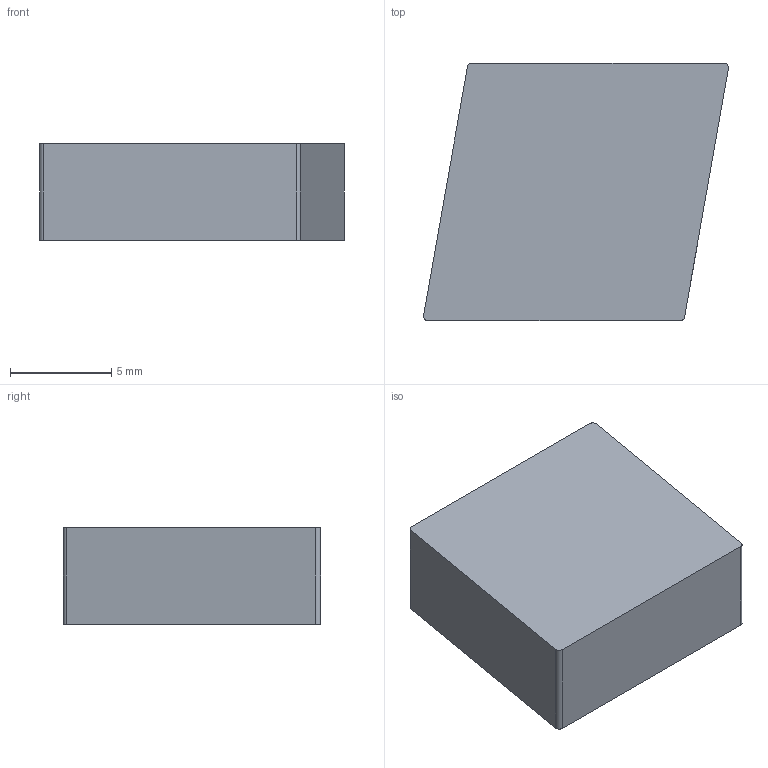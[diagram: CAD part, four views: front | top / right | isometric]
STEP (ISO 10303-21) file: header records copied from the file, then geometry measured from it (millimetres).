
FILE_DESCRIPTION((''),'2;1');
FILE_NAME('C:\Users\drh\Desktop\Presentation\Mating\CNMG 430.5.stp','2018-05-22T16:41:18',(''),(''),'STEP Write','Mastercam 2020 ... CNC Software, Inc.','');
FILE_SCHEMA(('AUTOMOTIVE_DESIGN'));
Length unit declared in the file: inch
Products named in the file (1): None
Bounding box: 15.06 x 12.7 x 4.76 mm (x, y, z)
Volume: 779.8 mm3; surface area: 571.4 mm2
Topology: 1 solids, 1 shells, 10 faces, 24 edges, 16 vertices
Faces by surface type: plane 6, cylinder 4
Entity records: 339 total; most frequent: DIRECTION 56, CARTESIAN_POINT 52, ORIENTED_EDGE 48, EDGE_CURVE 24, AXIS2_PLACEMENT_3D 20, VERTEX_POINT 16, VECTOR 16, LINE 16
